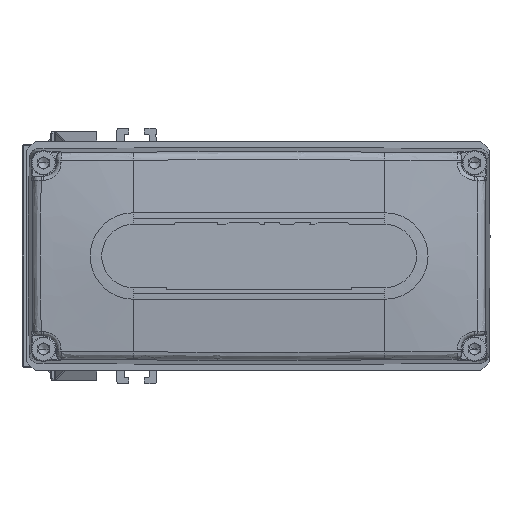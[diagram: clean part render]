
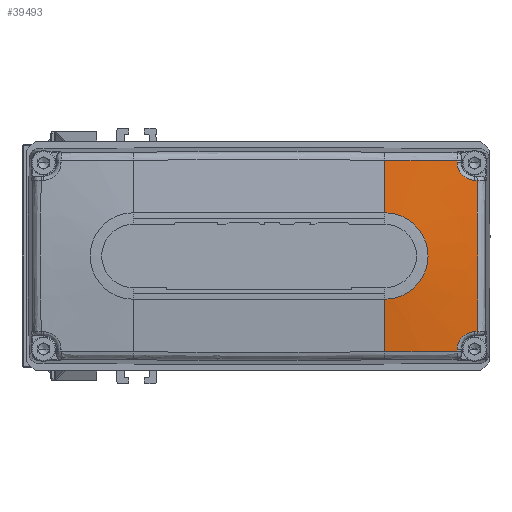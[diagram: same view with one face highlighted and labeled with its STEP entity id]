
A CAD part, left-side view. The second image highlights one B-rep face of the part: STEP entity #39493.
In plain terms, the highlighted conical face has half-angle 85 degrees and reference radius 26.329 mm.
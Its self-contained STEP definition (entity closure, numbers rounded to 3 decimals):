
#180 = DIRECTION ( 'NONE',  ( -0.087, 0., 0.996 ) ) ;
#206 = VERTEX_POINT ( 'NONE', #14406 ) ;
#234 = ORIENTED_EDGE ( 'NONE', *, *, #3759, .F. ) ;
#236 = B_SPLINE_CURVE_WITH_KNOTS ( 'NONE', 3,
 ( #38150, #13820, #20702, #34941 ),
 .UNSPECIFIED., .F., .F.,
 ( 4, 4 ),
 ( 0., 1. ),
 .UNSPECIFIED. ) ;
#494 = EDGE_CURVE ( 'NONE', #31450, #38067, #1189, .T. ) ;
#1189 = LINE ( 'NONE', #17567, #40798 ) ;
#1896 = EDGE_CURVE ( 'NONE', #15421, #18758, #24091, .T. ) ;
#3369 = EDGE_CURVE ( 'NONE', #206, #37960, #41310, .T. ) ;
#3707 = B_SPLINE_CURVE_WITH_KNOTS ( 'NONE', 3,
 ( #44261, #19479, #41053, #12376 ),
 .UNSPECIFIED., .F., .F.,
 ( 4, 4 ),
 ( 0., 0.041 ),
 .UNSPECIFIED. ) ;
#3720 = ORIENTED_EDGE ( 'NONE', *, *, #10638, .F. ) ;
#3759 = EDGE_CURVE ( 'NONE', #23469, #8056, #16677, .T. ) ;
#4037 = CARTESIAN_POINT ( 'NONE',  ( -57.411, -56.667, -17.156 ) ) ;
#4224 = VERTEX_POINT ( 'NONE', #21306 ) ;
#5274 = EDGE_CURVE ( 'NONE', #4224, #25670, #3707, .T. ) ;
#5408 = CARTESIAN_POINT ( 'NONE',  ( -57.378, -57.155, -17.155 ) ) ;
#5953 = VERTEX_POINT ( 'NONE', #16318 ) ;
#6853 = VECTOR ( 'NONE', #180, 1000. ) ;
#7110 = CARTESIAN_POINT ( 'NONE',  ( -57.411, -56.667, 17.156 ) ) ;
#7676 = CARTESIAN_POINT ( 'NONE',  ( -57.411, -56.667, 17.156 ) ) ;
#7904 = CARTESIAN_POINT ( 'NONE',  ( -57.389, -56.992, 17.156 ) ) ;
#7933 = ORIENTED_EDGE ( 'NONE', *, *, #494, .F. ) ;
#7976 = AXIS2_PLACEMENT_3D ( 'NONE', #28421, #24993, #11434 ) ;
#8056 = VERTEX_POINT ( 'NONE', #7110 ) ;
#9330 = ORIENTED_EDGE ( 'NONE', *, *, #33778, .F. ) ;
#9704 = CARTESIAN_POINT ( 'NONE',  ( -57.657, -47.201, -21.64 ) ) ;
#10185 = EDGE_CURVE ( 'NONE', #5953, #4224, #27668, .T. ) ;
#10348 = B_SPLINE_CURVE_WITH_KNOTS ( 'NONE', 3,
 ( #41165, #9704, #20285, #34284 ),
 .UNSPECIFIED., .F., .F.,
 ( 4, 4 ),
 ( 0., 1. ),
 .UNSPECIFIED. ) ;
#10638 = EDGE_CURVE ( 'NONE', #38067, #15250, #236, .T. ) ;
#11398 = CARTESIAN_POINT ( 'NONE',  ( -57.442, -52.654, -20.574 ) ) ;
#11434 = DIRECTION ( 'NONE',  ( 0., 0., -1. ) ) ;
#12376 = CARTESIAN_POINT ( 'NONE',  ( -57.372, -52.653, -21.581 ) ) ;
#12421 = DIRECTION ( 'NONE',  ( 0., -1., 0. ) ) ;
#13063 = EDGE_CURVE ( 'NONE', #18758, #31450, #42156, .T. ) ;
#13315 = DIRECTION ( 'NONE',  ( -1., 0., 0. ) ) ;
#13820 = CARTESIAN_POINT ( 'NONE',  ( -57.846, -41.729, 21.694 ) ) ;
#14106 = CARTESIAN_POINT ( 'NONE',  ( -57.391, -52.653, 21.306 ) ) ;
#14406 = CARTESIAN_POINT ( 'NONE',  ( -57.378, -57.155, 17.155 ) ) ;
#14801 = CARTESIAN_POINT ( 'NONE',  ( -57.378, -57.155, 17.155 ) ) ;
#15250 = VERTEX_POINT ( 'NONE', #34275 ) ;
#15421 = VERTEX_POINT ( 'NONE', #18195 ) ;
#16212 = CARTESIAN_POINT ( 'NONE',  ( -58.114, -57.376, -0.825 ) ) ;
#16318 = CARTESIAN_POINT ( 'NONE',  ( -57.411, -56.667, -17.156 ) ) ;
#16357 = ORIENTED_EDGE ( 'NONE', *, *, #40430, .F. ) ;
#16388 = ORIENTED_EDGE ( 'NONE', *, *, #13063, .F. ) ;
#16392 = CARTESIAN_POINT ( 'NONE',  ( -57.411, -56.667, -17.156 ) ) ;
#16677 = B_SPLINE_CURVE_WITH_KNOTS ( 'NONE', 3,
 ( #22595, #43724, #19136, #26726, #26050, #40958 ),
 .UNSPECIFIED., .F., .F.,
 ( 4, 1, 1, 4 ),
 ( 0., 0.429, 0.714, 1. ),
 .UNSPECIFIED. ) ;
#17510 = ORIENTED_EDGE ( 'NONE', *, *, #5274, .F. ) ;
#17567 = CARTESIAN_POINT ( 'NONE',  ( -58.886, -36.25, 9.805 ) ) ;
#17780 = CARTESIAN_POINT ( 'NONE',  ( -57.372, -52.653, 21.581 ) ) ;
#17875 = CARTESIAN_POINT ( 'NONE',  ( -57.378, -57.155, -17.155 ) ) ;
#18142 = CARTESIAN_POINT ( 'NONE',  ( -57.401, -52.653, 21.169 ) ) ;
#18195 = CARTESIAN_POINT ( 'NONE',  ( -57.843, -36.25, -21.728 ) ) ;
#18253 = CONICAL_SURFACE ( 'NONE', #7976, 26.329, 1.484 ) ;
#18490 = CARTESIAN_POINT ( 'NONE',  ( -57.537, -54.279, -17.684 ) ) ;
#18758 = VERTEX_POINT ( 'NONE', #37078 ) ;
#18764 = ORIENTED_EDGE ( 'NONE', *, *, #1896, .F. ) ;
#19136 = CARTESIAN_POINT ( 'NONE',  ( -57.535, -53.181, 18.782 ) ) ;
#19215 = CARTESIAN_POINT ( 'NONE',  ( -57.843, -36.25, 21.728 ) ) ;
#19370 = ORIENTED_EDGE ( 'NONE', *, *, #3369, .F. ) ;
#19479 = CARTESIAN_POINT ( 'NONE',  ( -57.391, -52.653, -21.306 ) ) ;
#19697 = ORIENTED_EDGE ( 'NONE', *, *, #35241, .F. ) ;
#19792 = CARTESIAN_POINT ( 'NONE',  ( -58.886, -36.25, 9.805 ) ) ;
#20285 = CARTESIAN_POINT ( 'NONE',  ( -57.846, -41.728, -21.694 ) ) ;
#20702 = CARTESIAN_POINT ( 'NONE',  ( -57.657, -47.202, 21.64 ) ) ;
#21306 = CARTESIAN_POINT ( 'NONE',  ( -57.401, -52.653, -21.169 ) ) ;
#21936 = CARTESIAN_POINT ( 'NONE',  ( -57.401, -52.653, -21.169 ) ) ;
#22153 = CARTESIAN_POINT ( 'NONE',  ( -57.509, -52.93, -19.373 ) ) ;
#22402 = CARTESIAN_POINT ( 'NONE',  ( -57.47, -55.774, -17.158 ) ) ;
#22595 = CARTESIAN_POINT ( 'NONE',  ( -57.401, -52.653, 21.169 ) ) ;
#23041 = ORIENTED_EDGE ( 'NONE', *, *, #10185, .F. ) ;
#23095 = CARTESIAN_POINT ( 'NONE',  ( -57.643, -57.241, -12.272 ) ) ;
#23206 = CARTESIAN_POINT ( 'NONE',  ( -58.886, -36.25, 0. ) ) ;
#23330 = CARTESIAN_POINT ( 'NONE',  ( -57.731, -57.27, 10.639 ) ) ;
#23469 = VERTEX_POINT ( 'NONE', #18142 ) ;
#24091 = LINE ( 'NONE', #24540, #6853 ) ;
#24431 = CARTESIAN_POINT ( 'NONE',  ( -57.389, -56.992, -17.156 ) ) ;
#24540 = CARTESIAN_POINT ( 'NONE',  ( -57.843, -36.25, -21.728 ) ) ;
#24772 = FACE_OUTER_BOUND ( 'NONE', #40445, .T. ) ;
#24897 = EDGE_CURVE ( 'NONE', #37960, #5953, #32920, .T. ) ;
#24993 = DIRECTION ( 'NONE',  ( 1., 0., 0. ) ) ;
#25670 = VERTEX_POINT ( 'NONE', #34433 ) ;
#25820 = CARTESIAN_POINT ( 'NONE',  ( -57.4, -56.829, 17.156 ) ) ;
#26050 = CARTESIAN_POINT ( 'NONE',  ( -57.45, -56.071, 17.157 ) ) ;
#26726 = CARTESIAN_POINT ( 'NONE',  ( -57.514, -54.87, 17.433 ) ) ;
#27668 = B_SPLINE_CURVE_WITH_KNOTS ( 'NONE', 3,
 ( #4037, #22402, #18490, #22153, #11398, #21936 ),
 .UNSPECIFIED., .F., .F.,
 ( 4, 1, 1, 4 ),
 ( 0., 0.429, 0.714, 1. ),
 .UNSPECIFIED. ) ;
#27676 = CARTESIAN_POINT ( 'NONE',  ( -57.382, -52.653, 21.444 ) ) ;
#28358 = CARTESIAN_POINT ( 'NONE',  ( -57.401, -52.653, 21.169 ) ) ;
#28421 = CARTESIAN_POINT ( 'NONE',  ( -57.44, -36.25, 0. ) ) ;
#30629 = CARTESIAN_POINT ( 'NONE',  ( -57.378, -57.155, -17.155 ) ) ;
#31450 = VERTEX_POINT ( 'NONE', #19792 ) ;
#32920 = B_SPLINE_CURVE_WITH_KNOTS ( 'NONE', 3,
 ( #30629, #24431, #44631, #16392 ),
 .UNSPECIFIED., .F., .F.,
 ( 4, 4 ),
 ( 0., 0.049 ),
 .UNSPECIFIED. ) ;
#33437 = CARTESIAN_POINT ( 'NONE',  ( -57.378, -57.155, 17.155 ) ) ;
#33778 = EDGE_CURVE ( 'NONE', #15250, #23469, #37199, .T. ) ;
#34275 = CARTESIAN_POINT ( 'NONE',  ( -57.372, -52.653, 21.581 ) ) ;
#34284 = CARTESIAN_POINT ( 'NONE',  ( -57.843, -36.25, -21.728 ) ) ;
#34433 = CARTESIAN_POINT ( 'NONE',  ( -57.372, -52.653, -21.581 ) ) ;
#34941 = CARTESIAN_POINT ( 'NONE',  ( -57.372, -52.653, 21.581 ) ) ;
#35241 = EDGE_CURVE ( 'NONE', #8056, #206, #37555, .T. ) ;
#35915 = ORIENTED_EDGE ( 'NONE', *, *, #24897, .F. ) ;
#37078 = CARTESIAN_POINT ( 'NONE',  ( -58.886, -36.25, -9.805 ) ) ;
#37199 = B_SPLINE_CURVE_WITH_KNOTS ( 'NONE', 3,
 ( #17780, #27676, #14106, #28358 ),
 .UNSPECIFIED., .F., .F.,
 ( 4, 4 ),
 ( 0., 0.041 ),
 .UNSPECIFIED. ) ;
#37555 = B_SPLINE_CURVE_WITH_KNOTS ( 'NONE', 3,
 ( #7676, #25820, #7904, #14801 ),
 .UNSPECIFIED., .F., .F.,
 ( 4, 4 ),
 ( 0., 0.049 ),
 .UNSPECIFIED. ) ;
#37960 = VERTEX_POINT ( 'NONE', #17875 ) ;
#38067 = VERTEX_POINT ( 'NONE', #19215 ) ;
#38150 = CARTESIAN_POINT ( 'NONE',  ( -57.843, -36.25, 21.728 ) ) ;
#39493 = ADVANCED_FACE ( 'NONE', ( #24772 ), #18253, .T. ) ;
#40430 = EDGE_CURVE ( 'NONE', #25670, #15421, #10348, .T. ) ;
#40445 = EDGE_LOOP ( 'NONE', ( #9330, #3720, #7933, #16388, #18764, #16357, #17510, #23041, #35915, #19370, #19697, #234 ) ) ;
#40678 = AXIS2_PLACEMENT_3D ( 'NONE', #23206, #13315, #12421 ) ;
#40798 = VECTOR ( 'NONE', #42136, 1000. ) ;
#40958 = CARTESIAN_POINT ( 'NONE',  ( -57.411, -56.667, 17.156 ) ) ;
#41053 = CARTESIAN_POINT ( 'NONE',  ( -57.382, -52.653, -21.444 ) ) ;
#41165 = CARTESIAN_POINT ( 'NONE',  ( -57.372, -52.653, -21.581 ) ) ;
#41310 = B_SPLINE_CURVE_WITH_KNOTS ( 'NONE', 3,
 ( #33437, #23330, #16212, #23095, #5408 ),
 .UNSPECIFIED., .F., .F.,
 ( 4, 1, 4 ),
 ( 0., 0.572, 1. ),
 .UNSPECIFIED. ) ;
#42136 = DIRECTION ( 'NONE',  ( 0.087, 0., 0.996 ) ) ;
#42156 = CIRCLE ( 'NONE', #40678, 9.805 ) ;
#43724 = CARTESIAN_POINT ( 'NONE',  ( -57.462, -52.655, 20.276 ) ) ;
#44261 = CARTESIAN_POINT ( 'NONE',  ( -57.401, -52.653, -21.169 ) ) ;
#44631 = CARTESIAN_POINT ( 'NONE',  ( -57.4, -56.829, -17.156 ) ) ;
